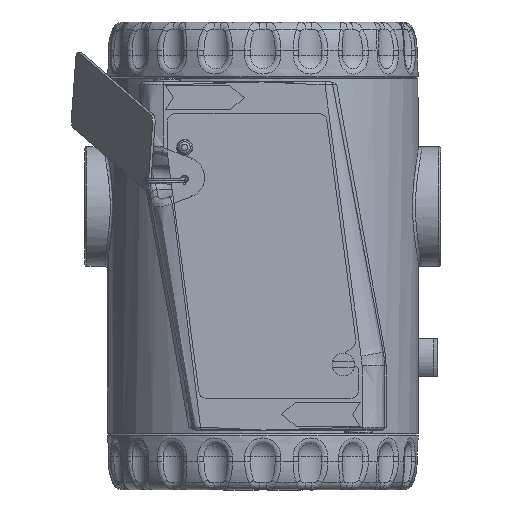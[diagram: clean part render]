
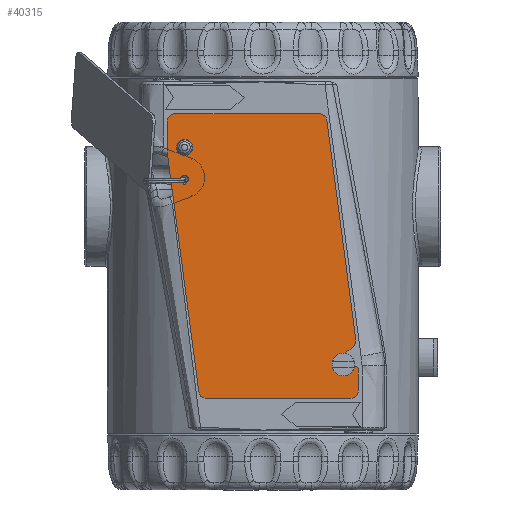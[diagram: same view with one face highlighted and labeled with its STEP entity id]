
A CAD part, left-side view. The second image highlights one B-rep face of the part: STEP entity #40315.
In plain terms, the highlighted planar face has unit normal (-1, 0, 0) as drawn and (0, 0, 1) by its records, which use the part's own axes.
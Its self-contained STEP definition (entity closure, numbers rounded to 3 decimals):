
#1175=PLANE('',#44799);
#1865=FACE_BOUND('',#10412,.T.);
#1866=FACE_BOUND('',#10413,.T.);
#3264=LINE('',#83785,#5018);
#3268=LINE('',#83797,#5022);
#3272=LINE('',#83809,#5026);
#3276=LINE('',#83821,#5030);
#3280=LINE('',#83833,#5034);
#3283=LINE('',#83839,#5037);
#3287=LINE('',#83851,#5041);
#3291=LINE('',#83862,#5045);
#5018=VECTOR('',#53925,10.);
#5022=VECTOR('',#53937,10.);
#5026=VECTOR('',#53949,10.);
#5030=VECTOR('',#53961,10.);
#5034=VECTOR('',#53973,10.);
#5037=VECTOR('',#53978,10.);
#5041=VECTOR('',#53990,10.);
#5045=VECTOR('',#54002,10.);
#7794=FACE_OUTER_BOUND('',#10411,.T.);
#10411=EDGE_LOOP('',(#33231,#33232,#33233,#33234,#33235,#33236,#33237,#33238,
#33239,#33240,#33241,#33242,#33243,#33244,#33245));
#10412=EDGE_LOOP('',(#33246));
#10413=EDGE_LOOP('',(#33247));
#13110=CIRCLE('',#44765,1.35);
#13112=CIRCLE('',#44768,1.);
#13113=CIRCLE('',#44770,2.);
#13115=CIRCLE('',#44774,2.);
#13117=CIRCLE('',#44778,1.);
#13119=CIRCLE('',#44782,2.);
#13121=CIRCLE('',#44786,2.);
#13123=CIRCLE('',#44791,2.);
#13125=CIRCLE('',#44795,2.);
#17954=VERTEX_POINT('',#83765);
#17956=VERTEX_POINT('',#83771);
#17957=VERTEX_POINT('',#83775);
#17958=VERTEX_POINT('',#83776);
#17961=VERTEX_POINT('',#83784);
#17963=VERTEX_POINT('',#83790);
#17965=VERTEX_POINT('',#83796);
#17967=VERTEX_POINT('',#83802);
#17969=VERTEX_POINT('',#83808);
#17971=VERTEX_POINT('',#83814);
#17973=VERTEX_POINT('',#83820);
#17975=VERTEX_POINT('',#83826);
#17977=VERTEX_POINT('',#83832);
#17979=VERTEX_POINT('',#83838);
#17981=VERTEX_POINT('',#83844);
#17983=VERTEX_POINT('',#83850);
#17985=VERTEX_POINT('',#83856);
#23197=EDGE_CURVE('',#17954,#17954,#13110,.T.);
#23200=EDGE_CURVE('',#17956,#17956,#13112,.T.);
#23201=EDGE_CURVE('',#17957,#17958,#13113,.T.);
#23205=EDGE_CURVE('',#17958,#17961,#3264,.T.);
#23208=EDGE_CURVE('',#17961,#17963,#13115,.T.);
#23211=EDGE_CURVE('',#17963,#17965,#3268,.T.);
#23214=EDGE_CURVE('',#17965,#17967,#13117,.T.);
#23217=EDGE_CURVE('',#17967,#17969,#3272,.T.);
#23220=EDGE_CURVE('',#17969,#17971,#13119,.T.);
#23223=EDGE_CURVE('',#17971,#17973,#3276,.T.);
#23226=EDGE_CURVE('',#17973,#17975,#13121,.T.);
#23229=EDGE_CURVE('',#17975,#17977,#3280,.T.);
#23232=EDGE_CURVE('',#17977,#17979,#3283,.T.);
#23235=EDGE_CURVE('',#17979,#17981,#13123,.T.);
#23238=EDGE_CURVE('',#17981,#17983,#3287,.T.);
#23241=EDGE_CURVE('',#17983,#17985,#13125,.T.);
#23244=EDGE_CURVE('',#17985,#17957,#3291,.T.);
#33231=ORIENTED_EDGE('',*,*,#23201,.F.);
#33232=ORIENTED_EDGE('',*,*,#23244,.F.);
#33233=ORIENTED_EDGE('',*,*,#23241,.F.);
#33234=ORIENTED_EDGE('',*,*,#23238,.F.);
#33235=ORIENTED_EDGE('',*,*,#23235,.F.);
#33236=ORIENTED_EDGE('',*,*,#23232,.F.);
#33237=ORIENTED_EDGE('',*,*,#23229,.F.);
#33238=ORIENTED_EDGE('',*,*,#23226,.F.);
#33239=ORIENTED_EDGE('',*,*,#23223,.F.);
#33240=ORIENTED_EDGE('',*,*,#23220,.F.);
#33241=ORIENTED_EDGE('',*,*,#23217,.F.);
#33242=ORIENTED_EDGE('',*,*,#23214,.F.);
#33243=ORIENTED_EDGE('',*,*,#23211,.F.);
#33244=ORIENTED_EDGE('',*,*,#23208,.F.);
#33245=ORIENTED_EDGE('',*,*,#23205,.F.);
#33246=ORIENTED_EDGE('',*,*,#23197,.T.);
#33247=ORIENTED_EDGE('',*,*,#23200,.T.);
#40315=ADVANCED_FACE('',(#7794,#1865,#1866),#1175,.T.);
#44765=AXIS2_PLACEMENT_3D('',#83767,#53906,#53907);
#44768=AXIS2_PLACEMENT_3D('',#83773,#53913,#53914);
#44770=AXIS2_PLACEMENT_3D('',#83777,#53917,#53918);
#44774=AXIS2_PLACEMENT_3D('',#83791,#53930,#53931);
#44778=AXIS2_PLACEMENT_3D('',#83803,#53942,#53943);
#44782=AXIS2_PLACEMENT_3D('',#83815,#53954,#53955);
#44786=AXIS2_PLACEMENT_3D('',#83827,#53966,#53967);
#44791=AXIS2_PLACEMENT_3D('',#83845,#53983,#53984);
#44795=AXIS2_PLACEMENT_3D('',#83857,#53995,#53996);
#44799=AXIS2_PLACEMENT_3D('',#83865,#54006,#54007);
#53906=DIRECTION('center_axis',(0.,0.,-1.));
#53907=DIRECTION('ref_axis',(-1.,0.,0.));
#53913=DIRECTION('center_axis',(0.,0.,-1.));
#53914=DIRECTION('ref_axis',(-1.,0.,0.));
#53917=DIRECTION('center_axis',(0.,0.,-1.));
#53918=DIRECTION('ref_axis',(0.766,0.643,0.));
#53925=DIRECTION('',(0.643,-0.766,0.));
#53930=DIRECTION('center_axis',(0.,0.,1.));
#53931=DIRECTION('ref_axis',(0.766,0.643,0.));
#53937=DIRECTION('',(-0.643,0.766,0.));
#53942=DIRECTION('center_axis',(0.,0.,-1.));
#53943=DIRECTION('ref_axis',(0.,1.,0.));
#53949=DIRECTION('',(1.,0.,0.));
#53954=DIRECTION('center_axis',(0.,0.,-1.));
#53955=DIRECTION('ref_axis',(1.,0.,0.));
#53961=DIRECTION('',(0.,-1.,0.));
#53966=DIRECTION('center_axis',(0.,0.,-1.));
#53967=DIRECTION('ref_axis',(0.131,-0.991,0.));
#53973=DIRECTION('',(-0.991,-0.131,0.));
#53978=DIRECTION('',(-1.,0.,0.));
#53983=DIRECTION('center_axis',(0.,0.,-1.));
#53984=DIRECTION('ref_axis',(-1.,0.,0.));
#53990=DIRECTION('',(0.,1.,0.));
#53995=DIRECTION('center_axis',(0.,0.,-1.));
#53996=DIRECTION('ref_axis',(-0.131,0.991,0.));
#54002=DIRECTION('',(0.991,0.131,0.));
#54006=DIRECTION('center_axis',(0.,0.,1.));
#54007=DIRECTION('ref_axis',(1.,0.,0.));
#83765=CARTESIAN_POINT('',(10.35,4.599,0.7));
#83767=CARTESIAN_POINT('Origin',(9.,4.599,0.7));
#83771=CARTESIAN_POINT('',(18.4,4.599,0.7));
#83773=CARTESIAN_POINT('Origin',(17.4,4.599,0.7));
#83775=CARTESIAN_POINT('',(60.389,50.327,0.7));
#83776=CARTESIAN_POINT('',(62.182,49.63,0.7));
#83777=CARTESIAN_POINT('Origin',(60.65,48.344,0.7));
#83784=CARTESIAN_POINT('',(65.468,45.714,0.7));
#83785=CARTESIAN_POINT('',(65.468,45.714,0.7));
#83790=CARTESIAN_POINT('',(68.532,48.286,0.7));
#83791=CARTESIAN_POINT('Origin',(67.,47.,0.7));
#83796=CARTESIAN_POINT('',(67.633,49.357,0.7));
#83797=CARTESIAN_POINT('',(67.633,49.357,0.7));
#83802=CARTESIAN_POINT('',(68.399,51.,0.7));
#83803=CARTESIAN_POINT('Origin',(68.399,50.,0.7));
#83808=CARTESIAN_POINT('',(74.,51.,0.7));
#83809=CARTESIAN_POINT('',(74.,51.,0.7));
#83814=CARTESIAN_POINT('',(76.,49.,0.7));
#83815=CARTESIAN_POINT('Origin',(74.,49.,0.7));
#83820=CARTESIAN_POINT('',(76.,10.377,0.7));
#83821=CARTESIAN_POINT('',(76.,10.377,0.7));
#83826=CARTESIAN_POINT('',(74.261,8.394,0.7));
#83827=CARTESIAN_POINT('Origin',(74.,10.377,0.7));
#83832=CARTESIAN_POINT('',(10.5,0.,0.7));
#83833=CARTESIAN_POINT('',(10.5,0.,0.7));
#83838=CARTESIAN_POINT('',(2.,0.,0.7));
#83839=CARTESIAN_POINT('',(2.,0.,0.7));
#83844=CARTESIAN_POINT('',(0.,2.,0.7));
#83845=CARTESIAN_POINT('Origin',(2.,2.,0.7));
#83850=CARTESIAN_POINT('',(0.,40.623,0.7));
#83851=CARTESIAN_POINT('',(0.,40.623,0.7));
#83856=CARTESIAN_POINT('',(1.739,42.606,0.7));
#83857=CARTESIAN_POINT('Origin',(2.,40.623,0.7));
#83862=CARTESIAN_POINT('',(60.389,50.327,0.7));
#83865=CARTESIAN_POINT('Origin',(39.077,26.228,0.7));
